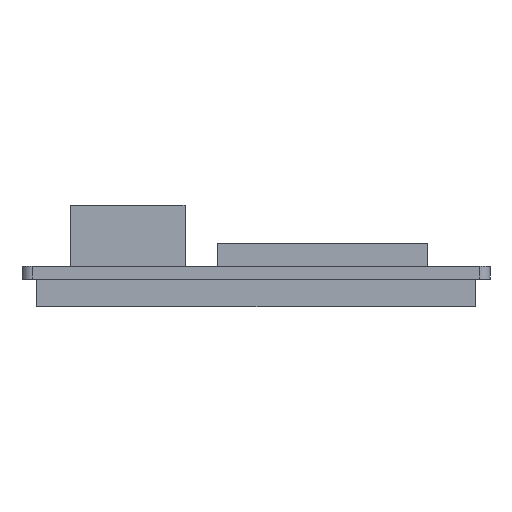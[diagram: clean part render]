
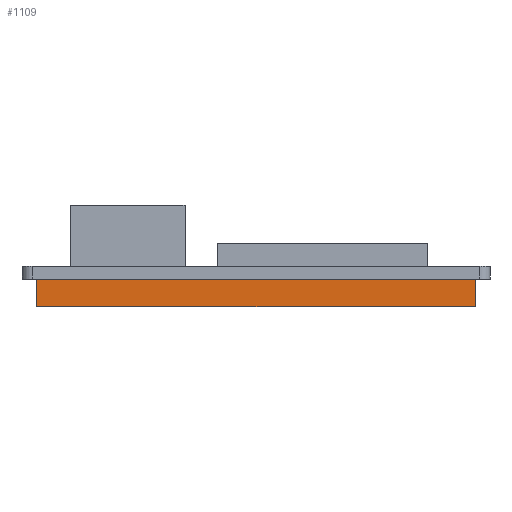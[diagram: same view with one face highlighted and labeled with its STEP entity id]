
A CAD part, left-side view. The second image highlights one B-rep face of the part: STEP entity #1109.
In plain terms, the highlighted planar face has unit normal (-1, 0, 0).
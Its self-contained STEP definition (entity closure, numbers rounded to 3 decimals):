
#22 = CARTESIAN_POINT ( 'NONE',  ( -96.1, 1.87, -3.5 ) ) ;
#25 = DIRECTION ( 'NONE',  ( 1., 0., 0. ) ) ;
#49 = DIRECTION ( 'NONE',  ( 0., 0., 1. ) ) ;
#98 = VERTEX_POINT ( 'NONE', #1416 ) ;
#124 = VERTEX_POINT ( 'NONE', #1120 ) ;
#155 = EDGE_CURVE ( 'NONE', #98, #976, #745, .T. ) ;
#174 = FACE_OUTER_BOUND ( 'NONE', #731, .T. ) ;
#212 = EDGE_CURVE ( 'NONE', #350, #124, #956, .T. ) ;
#278 = DIRECTION ( 'NONE',  ( 0., 1., 0. ) ) ;
#315 = CARTESIAN_POINT ( 'NONE',  ( -96.1, 0., -3.5 ) ) ;
#319 = CARTESIAN_POINT ( 'NONE',  ( -96.1, 0., 0. ) ) ;
#339 = LINE ( 'NONE', #319, #1099 ) ;
#350 = VERTEX_POINT ( 'NONE', #22 ) ;
#355 = ORIENTED_EDGE ( 'NONE', *, *, #1010, .F. ) ;
#535 = EDGE_CURVE ( 'NONE', #124, #976, #339, .T. ) ;
#571 = DIRECTION ( 'NONE',  ( 0., 1., 0. ) ) ;
#583 = AXIS2_PLACEMENT_3D ( 'NONE', #315, #25, #1079 ) ;
#636 = ORIENTED_EDGE ( 'NONE', *, *, #155, .F. ) ;
#731 = EDGE_LOOP ( 'NONE', ( #1515, #636, #355, #1071 ) ) ;
#745 = LINE ( 'NONE', #1858, #1909 ) ;
#956 = LINE ( 'NONE', #1796, #1733 ) ;
#976 = VERTEX_POINT ( 'NONE', #1933 ) ;
#1010 = EDGE_CURVE ( 'NONE', #350, #98, #1169, .T. ) ;
#1029 = DIRECTION ( 'NONE',  ( 0., 0., 1. ) ) ;
#1071 = ORIENTED_EDGE ( 'NONE', *, *, #212, .T. ) ;
#1079 = DIRECTION ( 'NONE',  ( 0., 1., 0. ) ) ;
#1099 = VECTOR ( 'NONE', #571, 1000. ) ;
#1109 = ADVANCED_FACE ( 'NONE', ( #174 ), #1701, .F. ) ;
#1120 = CARTESIAN_POINT ( 'NONE',  ( -96.1, 1.87, 0. ) ) ;
#1130 = VECTOR ( 'NONE', #278, 1000. ) ;
#1169 = LINE ( 'NONE', #1508, #1130 ) ;
#1416 = CARTESIAN_POINT ( 'NONE',  ( -96.1, 57.13, -3.5 ) ) ;
#1508 = CARTESIAN_POINT ( 'NONE',  ( -96.1, 0., -3.5 ) ) ;
#1515 = ORIENTED_EDGE ( 'NONE', *, *, #535, .T. ) ;
#1701 = PLANE ( 'NONE',  #583 ) ;
#1733 = VECTOR ( 'NONE', #1029, 1000. ) ;
#1796 = CARTESIAN_POINT ( 'NONE',  ( -96.1, 1.87, -3.5 ) ) ;
#1858 = CARTESIAN_POINT ( 'NONE',  ( -96.1, 57.13, -3.5 ) ) ;
#1909 = VECTOR ( 'NONE', #49, 1000. ) ;
#1933 = CARTESIAN_POINT ( 'NONE',  ( -96.1, 57.13, 0. ) ) ;
